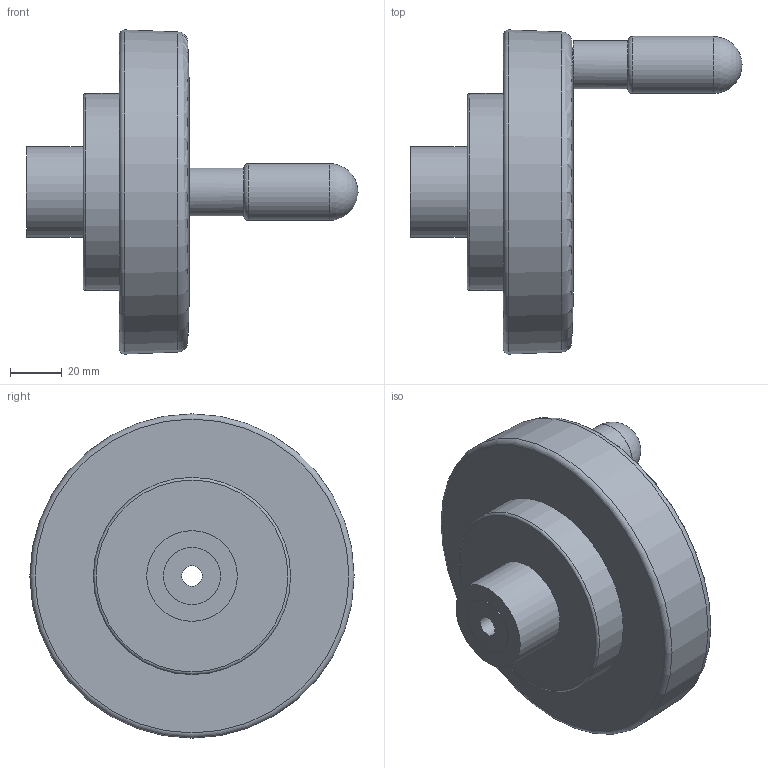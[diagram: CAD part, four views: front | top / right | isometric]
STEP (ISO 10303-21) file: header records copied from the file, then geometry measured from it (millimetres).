
FILE_DESCRIPTION( ( 'STEP AP203' ), '1' );
FILE_NAME( 'C:/Temp/Ganter_Step_05_03_2020/data/1_4/gn521_8/gn521_8_b_d/Disc handwheel GN 521.8-125-B8-D.stp', '2020-03-05T10:53:25', ( 'License CC BY-ND 4.0' ), ( 'CADENAS' ), ' ', 'PARTsolutions', ' ' );
FILE_SCHEMA( ( 'CONFIG_CONTROL_DESIGN' ) );
Length unit declared in the file: millimetre
Products named in the file (1): _Disc handwheel GN 521.8-125-B8-D
Bounding box: 128 x 125 x 125 mm (x, y, z)
Volume: 299507.6 mm3; surface area: 51726.8 mm2
Topology: 1 solids, 1 shells, 25 faces, 52 edges, 32 vertices
Faces by surface type: cylinder 9, plane 8, torus 5, cone 2, sphere 1
Full cylindrical faces by diameter (mm): 8 x1, 14 x1, 18.5 x1, 22 x2, 30 x1, 35 x1, 68.5 x1, 76 x1
Entity records: 658 total; most frequent: CARTESIAN_POINT 165, DIRECTION 104, ORIENTED_EDGE 54, AXIS2_PLACEMENT_3D 52, EDGE_LOOP 50, FACE_OUTER_BOUND 39, VERTEX_POINT 27, EDGE_CURVE 27
